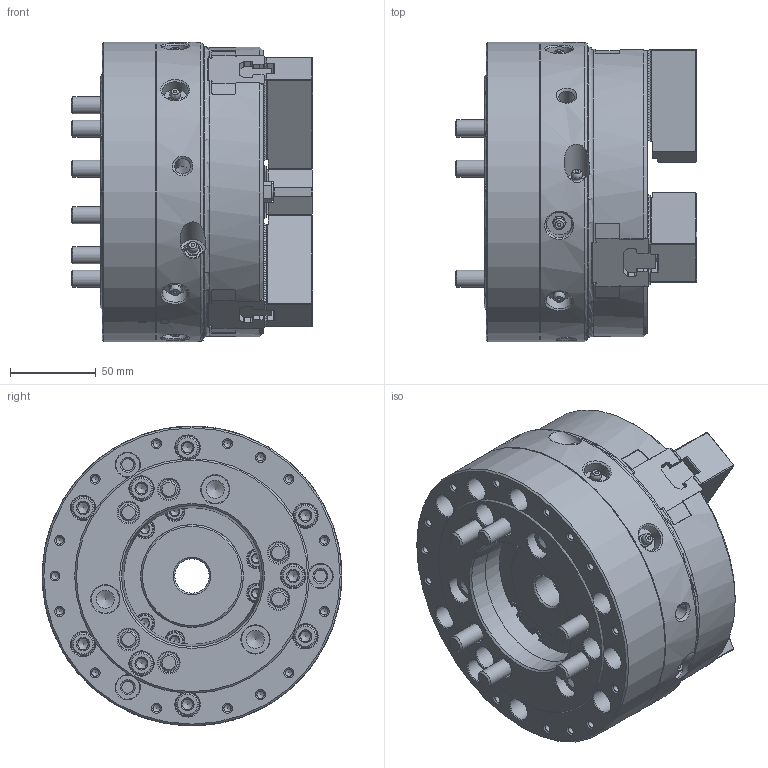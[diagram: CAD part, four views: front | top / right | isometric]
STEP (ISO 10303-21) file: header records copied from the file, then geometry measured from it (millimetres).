
FILE_DESCRIPTION (( 'STEP AP214' ), '1' );
FILE_NAME ('DT1_HOH-206_OUTSIDE_VIEW_HOL.STEP', '2024-05-09T06:06:50', ( '' ), ( '' ), 'SwSTEP 2.0', 'SolidWorks 2022', '' );
FILE_SCHEMA (( 'AUTOMOTIVE_DESIGN' ));
Length unit declared in the file: millimetre
Products named in the file (9): DT1_HOH-206_SOFTJAW^DT1_HOH-206_ﾃﾞﾌｫﾙﾄ; DT1_HOH-206_TNUT^DT1_HOH-206_ﾃﾞﾌｫﾙﾄ; DT1_HOH-206_DRAWNUT^DT1_HOH-206_ﾃﾞﾌｫﾙﾄ; DT1_HOH-206_OUTSIDE_VIEW_HOL; DT1_HOH-206_M5x10^DT1_HOH-206_ﾃﾞﾌｫﾙﾄ; DT1_HOH-206_COVER^DT1_HOH-206_ﾃﾞﾌｫﾙﾄ; DT1_HOH-206_M10x100^DT1_HOH-206_ﾃﾞﾌｫﾙﾄ; DT1_HOH-206_BASE^DT1_HOH-206_ﾃﾞﾌｫﾙﾄ; DT1_HOH-206_M10x25^DT1_HOH-206_ﾃﾞﾌｫﾙﾄ
Assembly tree (24 placements, depth 2):
  DT1_HOH-206_OUTSIDE_VIEW_HOL
    DT1_HOH-206_SOFTJAW^DT1_HOH-206_ﾃﾞﾌｫﾙﾄ  x3
    DT1_HOH-206_TNUT^DT1_HOH-206_ﾃﾞﾌｫﾙﾄ  x3
    DT1_HOH-206_DRAWNUT^DT1_HOH-206_ﾃﾞﾌｫﾙﾄ
    DT1_HOH-206_COVER^DT1_HOH-206_ﾃﾞﾌｫﾙﾄ
    DT1_HOH-206_BASE^DT1_HOH-206_ﾃﾞﾌｫﾙﾄ
    DT1_HOH-206_M5x10^DT1_HOH-206_ﾃﾞﾌｫﾙﾄ  x3
    DT1_HOH-206_M10x25^DT1_HOH-206_ﾃﾞﾌｫﾙﾄ  x6
    DT1_HOH-206_M10x100^DT1_HOH-206_ﾃﾞﾌｫﾙﾄ  x6
Bounding box: 141 x 175 x 175 mm (x, y, z)
Volume: 2024833.9 mm3; surface area: 313909.7 mm2
Topology: 24 solids, 56 shells, 3638 faces, 9944 edges, 6536 vertices
Faces by surface type: plane 2599, cone 406, cylinder 386, bspline 172, torus 57, sphere 18
Full cylindrical faces by diameter (mm): 4.2 x18, 5 x3, 5.5 x6, 6.4 x3, 7 x12, 8 x6, 8.6 x6, 9 x9, 9.5 x3, 10 x15, 11 x6, 11.5 x3, 12 x12, 13.27 x9, 14 x12, 15 x10, 16.27 x12, 16.28 x3, 17 x12, 20 x1, 45 x1, 48 x2, 55.5 x1, 57.8 x2, 60 x2, 65.5 x2, 79.8 x1, 170.6 x1, 171 x2, 171.4 x1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
Entity records: 105871 total; most frequent: CARTESIAN_POINT 36804, ORIENTED_EDGE 14740, DIRECTION 12591, EDGE_CURVE 7370, VERTEX_POINT 5027, LINE 4863, VECTOR 4863, AXIS2_PLACEMENT_3D 3864
